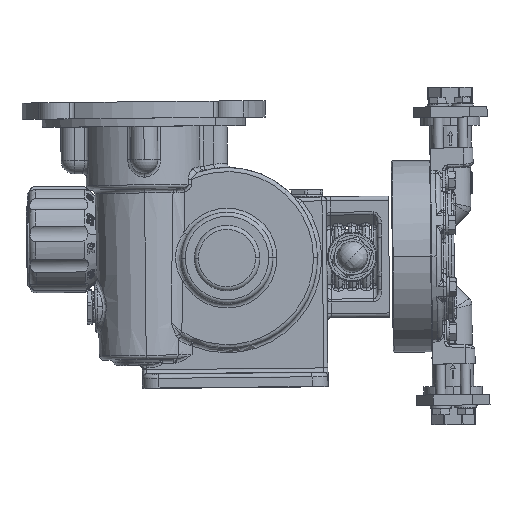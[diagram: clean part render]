
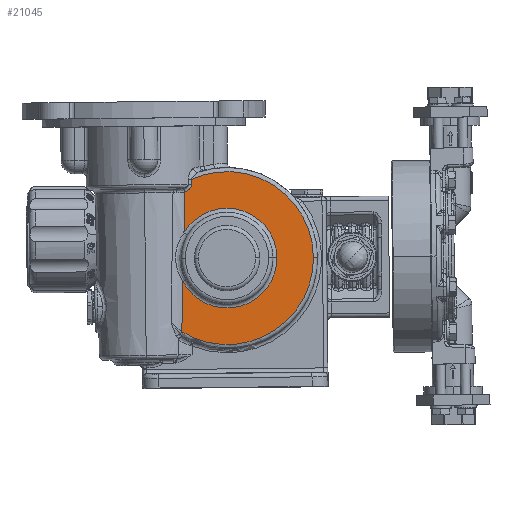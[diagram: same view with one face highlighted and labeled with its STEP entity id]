
A CAD part, top view. The second image highlights one B-rep face of the part: STEP entity #21045.
In plain terms, the highlighted planar face has unit normal (0, 0, 1).
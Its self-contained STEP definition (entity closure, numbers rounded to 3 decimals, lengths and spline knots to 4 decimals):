
#668 = EDGE_CURVE ( 'NONE', #57426, #88758, #108591, .T. ) ;
#1413 = CIRCLE ( 'NONE', #102772, 2.0797 ) ;
#1925 = DIRECTION ( 'NONE',  ( 0., 0., 1. ) ) ;
#6459 = ORIENTED_EDGE ( 'NONE', *, *, #124447, .T. ) ;
#6940 = DIRECTION ( 'NONE',  ( 0., 0., 1. ) ) ;
#7052 = DIRECTION ( 'NONE',  ( 0., 0., -1. ) ) ;
#12543 = B_SPLINE_CURVE_WITH_KNOTS ( 'NONE', 3,
 ( #100542, #66486, #65722, #113641, #54888, #102047, #135380, #149301, #64181, #122965, #16937, #111365, #76597, #123720, #17702, #82711 ),
 .UNSPECIFIED., .F., .F.,
 ( 4, 2, 2, 2, 2, 2, 2, 4 ),
 ( 0., 0.0008, 0.0016, 0.0025, 0.0033, 0.0041, 0.0049, 0.0065 ),
 .UNSPECIFIED. ) ;
#14022 = CARTESIAN_POINT ( 'NONE',  ( -4.0977, 1.0305, 10.8912 ) ) ;
#14317 = ORIENTED_EDGE ( 'NONE', *, *, #668, .T. ) ;
#16794 = EDGE_CURVE ( 'NONE', #112184, #21100, #88968, .T. ) ;
#16937 = CARTESIAN_POINT ( 'NONE',  ( -3.9601, 3.2336, 10.8912 ) ) ;
#17702 = CARTESIAN_POINT ( 'NONE',  ( -4.0323, 3.19, 10.8912 ) ) ;
#17878 = ORIENTED_EDGE ( 'NONE', *, *, #49058, .T. ) ;
#18111 = ORIENTED_EDGE ( 'NONE', *, *, #82905, .T. ) ;
#20863 = EDGE_LOOP ( 'NONE', ( #18111, #6459, #14317, #28532, #64702, #34972, #94904, #17878 ) ) ;
#21045 = ADVANCED_FACE ( 'NONE', ( #51938 ), #66604, .T. ) ;
#21100 = VERTEX_POINT ( 'NONE', #111476 ) ;
#21468 = DIRECTION ( 'NONE',  ( 0., 0., -1. ) ) ;
#21615 = EDGE_CURVE ( 'NONE', #21100, #40661, #112003, .T. ) ;
#28532 = ORIENTED_EDGE ( 'NONE', *, *, #89059, .T. ) ;
#32564 = CARTESIAN_POINT ( 'NONE',  ( -4.066, 2.5277, 10.8912 ) ) ;
#34353 = AXIS2_PLACEMENT_3D ( 'NONE', #142875, #1925, #144400 ) ;
#34706 = CIRCLE ( 'NONE', #94061, 1.2008 ) ;
#34972 = ORIENTED_EDGE ( 'NONE', *, *, #21615, .T. ) ;
#37261 = CARTESIAN_POINT ( 'NONE',  ( -4.0977, 1.0305, 10.8912 ) ) ;
#38176 = CARTESIAN_POINT ( 'NONE',  ( -3.8785, 1.5843, 10.8912 ) ) ;
#40661 = VERTEX_POINT ( 'NONE', #71984 ) ;
#41074 = DIRECTION ( 'NONE',  ( 1., 0.01, 0. ) ) ;
#44791 = CARTESIAN_POINT ( 'NONE',  ( -4.1246, -0.1797, 10.8912 ) ) ;
#47780 = AXIS2_PLACEMENT_3D ( 'NONE', #66414, #21468, #68739 ) ;
#49058 = EDGE_CURVE ( 'NONE', #49107, #122499, #57259, .T. ) ;
#49107 = VERTEX_POINT ( 'NONE', #37261 ) ;
#51938 = FACE_OUTER_BOUND ( 'NONE', #20863, .T. ) ;
#52091 = DIRECTION ( 'NONE',  ( 0.01, -1., 0. ) ) ;
#54888 = CARTESIAN_POINT ( 'NONE',  ( -3.9052, 3.3108, 10.8912 ) ) ;
#57259 = B_SPLINE_CURVE_WITH_KNOTS ( 'NONE', 3,
 ( #14022, #109205, #59767, #95356 ),
 .UNSPECIFIED., .F., .F.,
 ( 4, 4 ),
 ( 0.0567, 0.0875 ),
 .UNSPECIFIED. ) ;
#57426 = VERTEX_POINT ( 'NONE', #63924 ) ;
#59767 = CARTESIAN_POINT ( 'NONE',  ( -4.1154, 0.2237, 10.8912 ) ) ;
#63924 = CARTESIAN_POINT ( 'NONE',  ( -3.8978, 3.486, 10.8912 ) ) ;
#64181 = CARTESIAN_POINT ( 'NONE',  ( -3.9375, 3.2561, 10.8912 ) ) ;
#64702 = ORIENTED_EDGE ( 'NONE', *, *, #16794, .T. ) ;
#65200 = DIRECTION ( 'NONE',  ( 1., 0.01, 0. ) ) ;
#65722 = CARTESIAN_POINT ( 'NONE',  ( -3.8976, 3.3418, 10.8912 ) ) ;
#66414 = CARTESIAN_POINT ( 'NONE',  ( -3.0368, 1.5929, 10.8912 ) ) ;
#66486 = CARTESIAN_POINT ( 'NONE',  ( -3.8965, 3.3526, 10.8912 ) ) ;
#66604 = PLANE ( 'NONE',  #87206 ) ;
#67431 = CARTESIAN_POINT ( 'NONE',  ( -4.0527, 3.1834, 10.8912 ) ) ;
#68739 = DIRECTION ( 'NONE',  ( 1., 0.01, 0. ) ) ;
#71984 = CARTESIAN_POINT ( 'NONE',  ( -1.836, 1.6051, 10.8912 ) ) ;
#76597 = CARTESIAN_POINT ( 'NONE',  ( -3.9858, 3.2146, 10.8912 ) ) ;
#79830 = CARTESIAN_POINT ( 'NONE',  ( -4.0728, 2.1999, 10.8912 ) ) ;
#82711 = CARTESIAN_POINT ( 'NONE',  ( -4.0527, 3.1834, 10.8912 ) ) ;
#82905 = EDGE_CURVE ( 'NONE', #122499, #90025, #1413, .T. ) ;
#86419 = VECTOR ( 'NONE', #52091, 39.3701 ) ;
#87206 = AXIS2_PLACEMENT_3D ( 'NONE', #113752, #6940, #41074 ) ;
#88758 = VERTEX_POINT ( 'NONE', #128515 ) ;
#88968 = B_SPLINE_CURVE_WITH_KNOTS ( 'NONE', 3,
 ( #67431, #91402, #32564, #79830 ),
 .UNSPECIFIED., .F., .F.,
 ( 4, 4 ),
 ( 0.002, 0.027 ),
 .UNSPECIFIED. ) ;
#89059 = EDGE_CURVE ( 'NONE', #88758, #112184, #12543, .T. ) ;
#90025 = VERTEX_POINT ( 'NONE', #92807 ) ;
#91402 = CARTESIAN_POINT ( 'NONE',  ( -4.0593, 2.8556, 10.8912 ) ) ;
#92807 = CARTESIAN_POINT ( 'NONE',  ( -0.9571, 1.614, 10.8912 ) ) ;
#94061 = AXIS2_PLACEMENT_3D ( 'NONE', #126261, #7052, #65200 ) ;
#94904 = ORIENTED_EDGE ( 'NONE', *, *, #112253, .T. ) ;
#95356 = CARTESIAN_POINT ( 'NONE',  ( -4.1246, -0.1797, 10.8912 ) ) ;
#99287 = CARTESIAN_POINT ( 'NONE',  ( -3.0368, 1.5929, 10.8912 ) ) ;
#100542 = CARTESIAN_POINT ( 'NONE',  ( -3.8966, 3.3634, 10.8912 ) ) ;
#101074 = CIRCLE ( 'NONE', #34353, 2.0797 ) ;
#102047 = CARTESIAN_POINT ( 'NONE',  ( -3.9136, 3.2914, 10.8912 ) ) ;
#102772 = AXIS2_PLACEMENT_3D ( 'NONE', #99287, #146514, #122486 ) ;
#108591 = LINE ( 'NONE', #38176, #86419 ) ;
#109205 = CARTESIAN_POINT ( 'NONE',  ( -4.1065, 0.6271, 10.8912 ) ) ;
#111365 = CARTESIAN_POINT ( 'NONE',  ( -3.977, 3.2205, 10.8912 ) ) ;
#111476 = CARTESIAN_POINT ( 'NONE',  ( -4.0728, 2.1999, 10.8912 ) ) ;
#112003 = CIRCLE ( 'NONE', #47780, 1.2008 ) ;
#112184 = VERTEX_POINT ( 'NONE', #133325 ) ;
#112253 = EDGE_CURVE ( 'NONE', #40661, #49107, #34706, .T. ) ;
#113641 = CARTESIAN_POINT ( 'NONE',  ( -3.9019, 3.3209, 10.8912 ) ) ;
#113752 = CARTESIAN_POINT ( 'NONE',  ( -3.0368, 1.5929, 10.8912 ) ) ;
#122486 = DIRECTION ( 'NONE',  ( 1., 0.01, 0. ) ) ;
#122499 = VERTEX_POINT ( 'NONE', #44791 ) ;
#122965 = CARTESIAN_POINT ( 'NONE',  ( -3.9521, 3.2407, 10.8912 ) ) ;
#123720 = CARTESIAN_POINT ( 'NONE',  ( -4.013, 3.1985, 10.8912 ) ) ;
#124447 = EDGE_CURVE ( 'NONE', #90025, #57426, #101074, .T. ) ;
#126261 = CARTESIAN_POINT ( 'NONE',  ( -3.0368, 1.5929, 10.8912 ) ) ;
#128515 = CARTESIAN_POINT ( 'NONE',  ( -3.8966, 3.3634, 10.8912 ) ) ;
#133325 = CARTESIAN_POINT ( 'NONE',  ( -4.0527, 3.1834, 10.8912 ) ) ;
#135380 = CARTESIAN_POINT ( 'NONE',  ( -3.9188, 3.2821, 10.8912 ) ) ;
#142875 = CARTESIAN_POINT ( 'NONE',  ( -3.0368, 1.5929, 10.8912 ) ) ;
#144400 = DIRECTION ( 'NONE',  ( 1., 0.01, 0. ) ) ;
#146514 = DIRECTION ( 'NONE',  ( 0., 0., 1. ) ) ;
#149301 = CARTESIAN_POINT ( 'NONE',  ( -3.9308, 3.2643, 10.8912 ) ) ;
